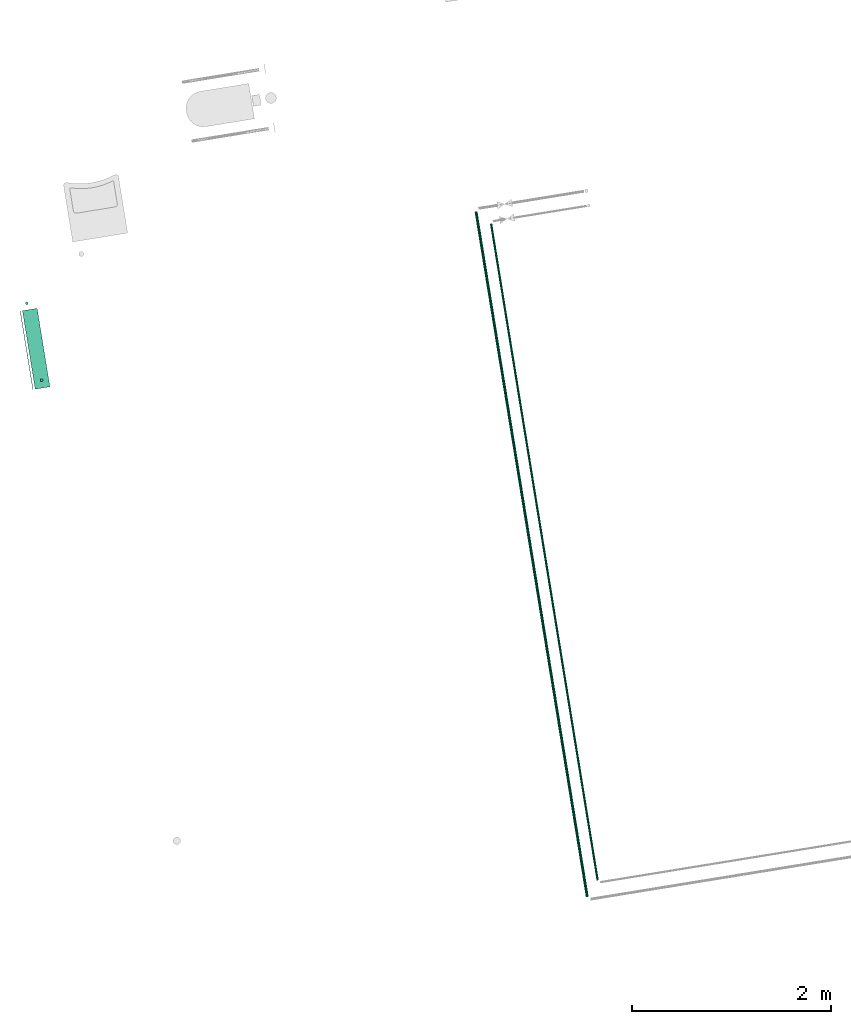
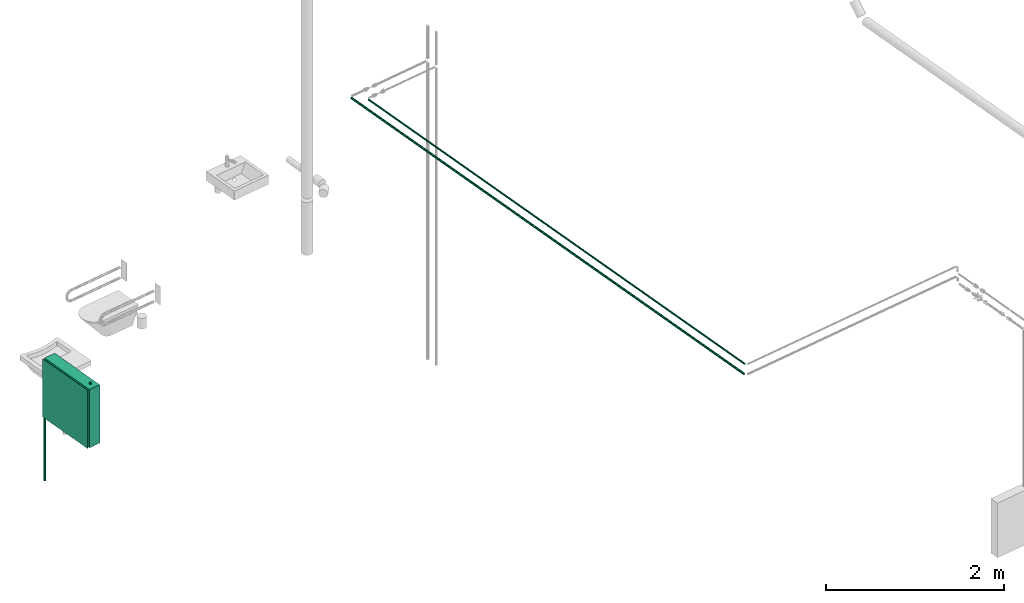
# One storey, part 2 of 10: 3 flow segments, 1 flow terminal.
"""IFC2X3 building model written with IfcOpenShell, lengths in millimetres."""

from ifc_helpers import new_model, entity, si_unit, converted_unit, derived_unit, direction, frame, frame_2d, origin, origin_with_axes, origin_2d_with_axis, place, context, subcontext, project, spatial, rectangle, circle, extrude, source, transform, mapped, material, type_object, element, save


model = new_model("IFC2X3")

# Units and contexts
model_context = context("Model", 3, precision=0.01, world=origin(), true_north=direction((6.12323399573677e-17, 1.0)))
plan_context = context("Plan", 3, precision=1e-05, world=origin_with_axes())
body_context = subcontext(model_context, "Body", "Model", "MODEL_VIEW")
ifc_project = project(units=[converted_unit("PLANEANGLEUNIT", "DEGREE", entity("IfcPositiveLengthMeasure", 0.0174532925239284), si_unit("PLANEANGLEUNIT", "RADIAN"), dimensions=[0, 0, 0, 0, 0, 0, 0]), si_unit("AREAUNIT", "SQUARE_METRE"), si_unit("LENGTHUNIT", "METRE", prefix="MILLI"), si_unit("MASSUNIT", "GRAM", prefix="KILO"), si_unit("POWERUNIT", "WATT"), si_unit("PRESSUREUNIT", "PASCAL", prefix="KILO"), si_unit("FORCEUNIT", "NEWTON", prefix="KILO"), si_unit("ELECTRICVOLTAGEUNIT", "VOLT"), si_unit("ELECTRICCURRENTUNIT", "AMPERE"), si_unit("THERMODYNAMICTEMPERATUREUNIT", "DEGREE_CELSIUS"), si_unit("TIMEUNIT", "SECOND"), si_unit("VOLUMEUNIT", "CUBIC_METRE"), derived_unit("LINEARVELOCITYUNIT", [(si_unit("LENGTHUNIT", "METRE"), 1), (si_unit("TIMEUNIT", "SECOND"), -1)]), derived_unit("VOLUMETRICFLOWRATEUNIT", [(si_unit("VOLUMEUNIT", "CUBIC_METRE"), 1), (si_unit("TIMEUNIT", "SECOND"), -1)]), derived_unit("THERMALTRANSMITTANCEUNIT", [(si_unit("POWERUNIT", "WATT"), 1), (si_unit("THERMODYNAMICTEMPERATUREUNIT", "KELVIN"), -1), (si_unit("AREAUNIT", "SQUARE_METRE"), -1)]), derived_unit("SOUNDPRESSUREUNIT", [(si_unit("PRESSUREUNIT", "PASCAL"), 1)])], contexts=[model_context, plan_context])

# Site, building, storey
site_placement = place(None, frame((-0.000710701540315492, 0.00438415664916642, 0.0), z_axis=(0.0, 0.0, 1.0), x_axis=(-0.160236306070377, 0.987078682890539, 0.0)))
site = spatial("IfcSite", under=ifc_project, at=site_placement, Name="Default", CompositionType="ELEMENT")
building_placement = place(site_placement, origin_with_axes())
building = spatial("IfcBuilding", under=site, at=building_placement, CompositionType="ELEMENT")
storey_placement = place(building_placement, frame((0.0, 0.0, 50999.9999999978), z_axis=(0.0, 0.0, 1.0), x_axis=(1.0, 0.0, 0.0)))
storey = spatial("IfcBuildingStorey", under=building, at=storey_placement, Name="Nivå D", CompositionType="ELEMENT", Elevation=50999.9999999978)

# Flow terminal
ifc_material = material(Name="<Unnamed>")
distribution_element_type = type_object("IfcDistributionElementType", Name="BRANNSKAP - 2 - UO:BRANNSKAP -  - UO001T", material=ifc_material)
shared_shape = source(origin(), body_context, "Body", "SweptSolid", [
    extrude(circle(Radius=14.0, at=frame_2d((0.0, -3.38395977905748e-14), x_axis=(1.0, 0.0))), frame((-321.443316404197, 76.2810888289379, 1750.0)), (0.0, 0.0, 1.0), 20.0000000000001),
    extrude(rectangle(XDim=150.0, YDim=800.0, at=origin_2d_with_axis()), frame((0.0, 80.0, 950.0), z_axis=(0.0, 0.0, 1.0), x_axis=(0.0, -1.0, 0.0)), (0.0, 0.0, 1.0), 800.0),
    extrude(rectangle(XDim=5.00000000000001, YDim=800.0, at=origin_2d_with_axis()), frame((0.0, 177.5, 950.0), z_axis=(0.0, 0.0, 1.0), x_axis=(0.0, 1.0, 0.0)), (0.0, 0.0, 1.0), 800.0),
])
flow_terminal_placement = place(storey_placement, frame((776461.119644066, -589037.48173883, -17.5000000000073), z_axis=(0.0, 0.0, 1.0), x_axis=(1.0, 0.0, 0.0)))
element("IfcFlowTerminal", 1, at=flow_terminal_placement, inside=storey, type_object=distribution_element_type, material=ifc_material, Name="BRANNSKAP - 2 - UO:BRANNSKAP -  - UO001T", ObjectType="BRANNSKAP - 2 - UO:BRANNSKAP -  - UO001T", context=body_context, shape_type="MappedRepresentation", body=[
    mapped(shared_shape, transform((0.0, 0.0, 0.0), scale=1.0)),
])

# Flow segments
pipe_segment_type = type_object("IfcPipeSegmentType", Name="Pipe Types:Kobberrør", PredefinedType="NOTDEFINED")
flow_segment_1_placement = place(storey_placement, origin_with_axes())
element("IfcFlowSegment", 2, at=flow_segment_1_placement, inside=storey, type_object=pipe_segment_type, Name="Pipe Types:Kobberrør", ObjectType="Pipe Types:Kobberrør", context=body_context, shape_type="SweptSolid", body=[
    extrude(circle(Radius=14.0, at=frame_2d((0.0, -6.93034962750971e-11), x_axis=(1.0, 0.0))), frame((776926.619644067, -588937.941515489, -10.0)), (0.0, 0.0, 1.0), 1360.0),
])
flow_segment_2_placement = place(storey_placement, origin_with_axes())
element("IfcFlowSegment", 3, at=flow_segment_2_placement, inside=storey, type_object=pipe_segment_type, Name="Pipe Types:Kobberrør", ObjectType="Pipe Types:Kobberrør", context=body_context, shape_type="SweptSolid", body=[
    extrude(circle(Radius=11.0, at=origin_2d_with_axis()), frame((770277.383502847, -593676.067617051, 3100.0), z_axis=(1.0, 0.0, 0.0), x_axis=(0.0, 1.0, 0.0)), (0.0, 0.0, 1.0), 6693.00000000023),
])
flow_segment_3_placement = place(storey_placement, origin_with_axes())
element("IfcFlowSegment", 4, at=flow_segment_3_placement, inside=storey, type_object=pipe_segment_type, Name="Pipe Types:Kobberrør", ObjectType="Pipe Types:Kobberrør", context=body_context, shape_type="SweptSolid", body=[
    extrude(circle(Radius=14.0, at=frame_2d((-6.93034962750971e-11, 0.0), x_axis=(1.0, 0.0))), frame((770130.383502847, -593546.067617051, 3100.0), z_axis=(1.0, 0.0, 0.0), x_axis=(0.0, 1.0, 0.0)), (0.0, 0.0, 1.0), 6983.98917649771),
])

save(model, "model.ifc")
